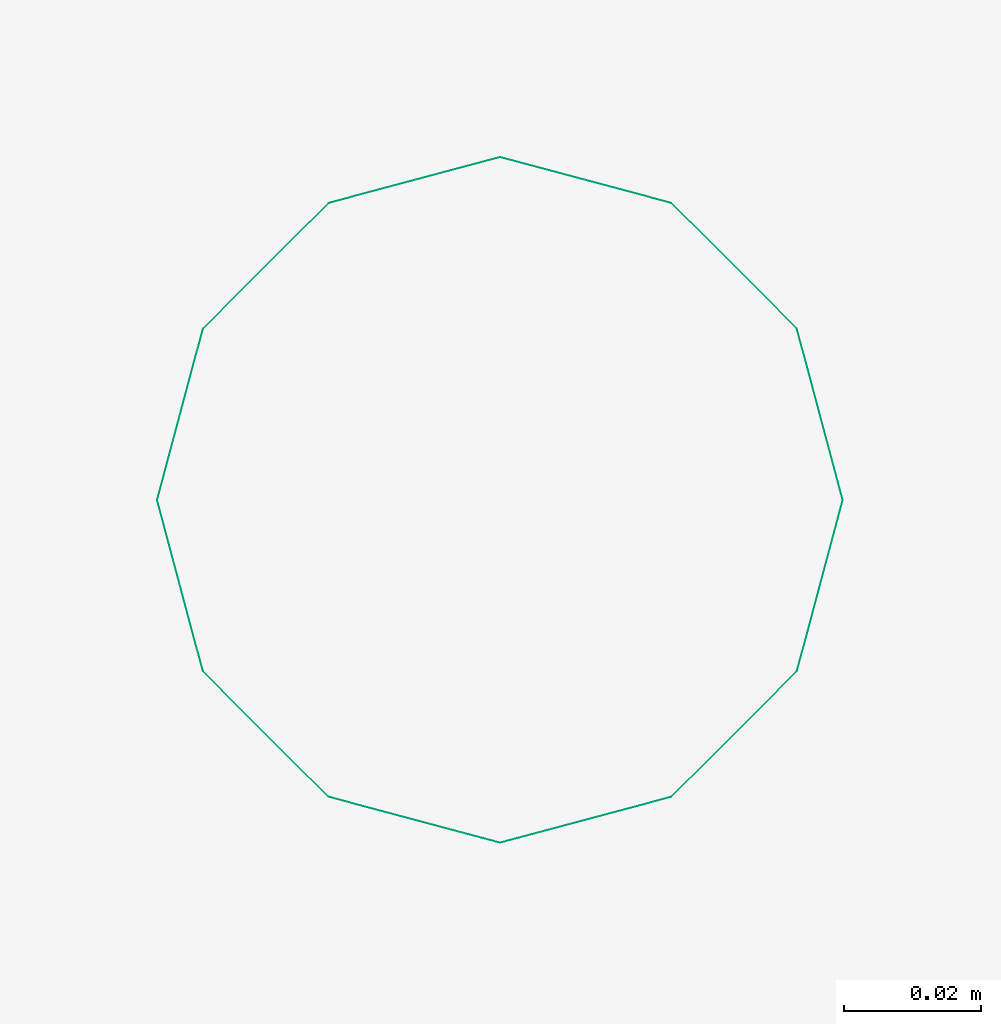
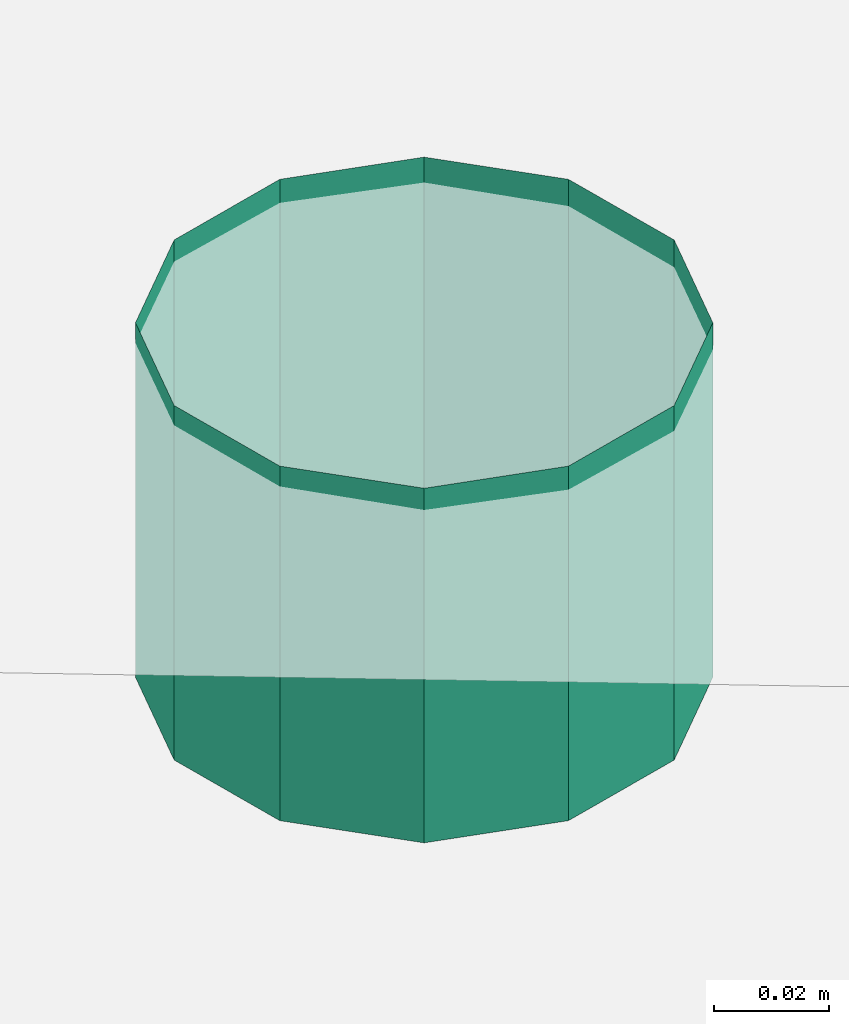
# One storey, part 52 of 54: 1 distribution flow element.
"""IFC2X3 building model written with IfcOpenShell, lengths in millimetres."""

from ifc_helpers import new_model, entity, si_unit, converted_unit, derived_unit, money_unit, direction, frame, origin_with_axes, place, context, subcontext, project, spatial, open_shell, surface_model, type_object, element, save


model = new_model("IFC2X3")

# Units and contexts
model_context = context("Model", 3, precision=0.01, world=origin_with_axes(), true_north=direction((0.0, 1.0)))
body_context = subcontext(model_context, "Body", "Model", "MODEL_VIEW")
ifc_project = project(units=[si_unit("LENGTHUNIT", "METRE", prefix="MILLI"), si_unit("AREAUNIT", "SQUARE_METRE"), si_unit("VOLUMEUNIT", "CUBIC_METRE"), converted_unit("PLANEANGLEUNIT", "DEGREE", entity("IfcPlaneAngleMeasure", 0.0174532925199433), si_unit("PLANEANGLEUNIT", "RADIAN"), dimensions=[0, 0, 0, 0, 0, 0, 0]), money_unit("EUR"), converted_unit("TIMEUNIT", "Year", entity("IfcTimeMeasure", 31557600.0), si_unit("TIMEUNIT", "SECOND"), dimensions=[0, 0, 1, 0, 0, 0, 0]), si_unit("MASSUNIT", "GRAM", prefix="KILO"), si_unit("THERMODYNAMICTEMPERATUREUNIT", "DEGREE_CELSIUS"), si_unit("LUMINOUSINTENSITYUNIT", "LUMEN"), si_unit("ENERGYUNIT", "JOULE", prefix="MEGA"), derived_unit("THERMALCONDUCTANCEUNIT", [(si_unit("POWERUNIT", "WATT"), 1), (si_unit("LENGTHUNIT", "METRE"), -1), (si_unit("THERMODYNAMICTEMPERATUREUNIT", "KELVIN"), -1)]), derived_unit("SPECIFICHEATCAPACITYUNIT", [(si_unit("ENERGYUNIT", "JOULE"), 1), (si_unit("MASSUNIT", "GRAM", prefix="KILO"), -1), (si_unit("THERMODYNAMICTEMPERATUREUNIT", "KELVIN"), -1)]), derived_unit("MASSDENSITYUNIT", [(si_unit("MASSUNIT", "GRAM", prefix="KILO"), 1), (si_unit("VOLUMEUNIT", "CUBIC_METRE"), -1)])], contexts=[model_context])

# Site, building, storey
site_placement = place(None, origin_with_axes())
site = spatial("IfcSite", under=ifc_project, at=site_placement, Name="<site naam>", CompositionType="ELEMENT")
building_placement = place(site_placement, origin_with_axes())
building = spatial("IfcBuilding", under=site, at=building_placement, Name="<Naam gebouw>", CompositionType="ELEMENT")
storey_placement = place(building_placement, frame((0.0, 0.0, 8500.0), z_axis=(0.0, 0.0, 1.0), x_axis=(1.0, 0.0, 0.0)))
storey = spatial("IfcBuildingStorey", under=building, at=storey_placement, Name="02 2e verdieping", CompositionType="ELEMENT", Elevation=8500.0)

# Distribution flow element
valve_type = type_object("IfcValveType", Name="Regenpijp 27", PredefinedType="AIRRELEASE")
distribution_flow_element_placement = place(storey_placement, frame((2226.244293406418, 19841.74999999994, 0.0), z_axis=(0.0, 0.0, 1.0), x_axis=(1.0, 0.0, 0.0)))
element("IfcDistributionFlowElement", 1, at=distribution_flow_element_placement, inside=storey, type_object=valve_type, Name="52_Wasmachine_Lege", context=body_context, shape_type="SurfaceModel", body=[
    surface_model("IfcShellBasedSurfaceModel", [(-50.0, -30.0, 74.96462553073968), (-50.0, -30.0, 0.0), (-43.30127018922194, -54.99999999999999, 0.0), (-43.30127018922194, -54.99999999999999, 74.96462553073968), (-43.30127018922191, -4.999999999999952, 74.96462553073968), (-43.30127018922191, -4.999999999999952, 0.0), (-25.00000000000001, -73.30127018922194, 0.0), (-25.00000000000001, -73.30127018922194, 74.96462553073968), (-24.99999999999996, 13.30127018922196, 74.96462553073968), (-24.99999999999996, 13.30127018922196, 0.0), (0.0, -80.0, 0.0), (0.0, -80.0, 74.96462553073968), (0.0, 20.0, 74.96462553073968), (0.0, 20.0, 0.0), (24.99999999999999, -73.30127018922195, 0.0), (24.99999999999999, -73.30127018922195, 74.96462553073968), (25.00000000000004, 13.30127018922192, 74.96462553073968), (25.00000000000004, 13.30127018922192, 0.0), (43.30127018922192, -55.00000000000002, 0.0), (43.30127018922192, -55.00000000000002, 74.96462553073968), (43.30127018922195, -5.000000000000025, 74.96462553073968), (43.30127018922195, -5.000000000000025, 0.0), (50.0, -30.00000000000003, 0.0), (50.0, -30.00000000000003, 74.96462553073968)], [open_shell([[[0, 1, 2, 3]], [[4, 5, 1, 0]], [[3, 2, 6, 7]], [[8, 9, 5, 4]], [[7, 6, 10, 11]], [[12, 13, 9, 8]], [[11, 10, 14, 15]], [[16, 17, 13, 12]], [[15, 14, 18, 19]], [[20, 21, 17, 16]], [[19, 18, 22, 23]], [[23, 22, 21, 20]]])]),
])

save(model, "model.ifc")
